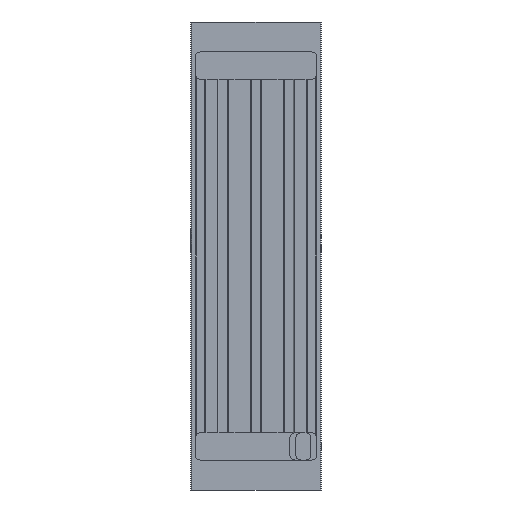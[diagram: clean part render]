
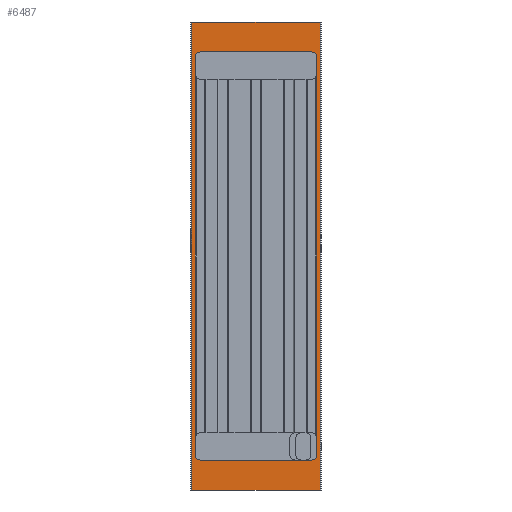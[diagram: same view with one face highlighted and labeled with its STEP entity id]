
A CAD part, front view. The second image highlights one B-rep face of the part: STEP entity #6487.
In plain terms, the highlighted planar face has unit normal (0, -1, 0).
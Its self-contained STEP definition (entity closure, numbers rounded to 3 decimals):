
#102 = VECTOR ( 'NONE', #4960, 1000. ) ;
#103 = LINE ( 'NONE', #5059, #102 ) ;
#255 = VERTEX_POINT ( 'NONE', #1852 ) ;
#297 = VERTEX_POINT ( 'NONE', #1829 ) ;
#314 = VERTEX_POINT ( 'NONE', #1853 ) ;
#317 = VERTEX_POINT ( 'NONE', #1856 ) ;
#370 = VERTEX_POINT ( 'NONE', #1889 ) ;
#382 = VERTEX_POINT ( 'NONE', #1893 ) ;
#394 = VERTEX_POINT ( 'NONE', #1940 ) ;
#402 = EDGE_LOOP ( 'NONE', ( #6241, #3638, #2179, #6556, #3666, #6507, #6273, #6555, #1140, #1177, #3674, #3665 ) ) ;
#420 = VERTEX_POINT ( 'NONE', #1933 ) ;
#547 = VERTEX_POINT ( 'NONE', #1851 ) ;
#559 = VERTEX_POINT ( 'NONE', #1847 ) ;
#593 = VERTEX_POINT ( 'NONE', #1857 ) ;
#595 = VERTEX_POINT ( 'NONE', #1842 ) ;
#611 = VERTEX_POINT ( 'NONE', #1861 ) ;
#646 = VERTEX_POINT ( 'NONE', #1953 ) ;
#667 = EDGE_LOOP ( 'NONE', ( #3649, #1175, #6264, #2164 ) ) ;
#680 = VERTEX_POINT ( 'NONE', #1958 ) ;
#685 = VERTEX_POINT ( 'NONE', #1957 ) ;
#1140 = ORIENTED_EDGE ( 'NONE', *, *, #2658, .F. ) ;
#1175 = ORIENTED_EDGE ( 'NONE', *, *, #2573, .T. ) ;
#1177 = ORIENTED_EDGE ( 'NONE', *, *, #2659, .F. ) ;
#1301 = CIRCLE ( 'NONE', #4351, 10. ) ;
#1306 = VECTOR ( 'NONE', #4769, 1000. ) ;
#1321 = LINE ( 'NONE', #5430, #1306 ) ;
#1829 = CARTESIAN_POINT ( 'NONE',  ( -57.588, -38.992, 765. ) ) ;
#1842 = CARTESIAN_POINT ( 'NONE',  ( -63.588, -38.992, 0. ) ) ;
#1847 = CARTESIAN_POINT ( 'NONE',  ( 166.412, -38.992, 65. ) ) ;
#1851 = CARTESIAN_POINT ( 'NONE',  ( 172.412, -38.992, 860. ) ) ;
#1852 = CARTESIAN_POINT ( 'NONE',  ( -57.588, -38.992, 95. ) ) ;
#1853 = CARTESIAN_POINT ( 'NONE',  ( -47.588, -38.992, 805. ) ) ;
#1856 = CARTESIAN_POINT ( 'NONE',  ( 156.412, -38.992, 55. ) ) ;
#1857 = CARTESIAN_POINT ( 'NONE',  ( 172.412, -38.992, 0. ) ) ;
#1861 = CARTESIAN_POINT ( 'NONE',  ( 156.412, -38.992, 805. ) ) ;
#1889 = CARTESIAN_POINT ( 'NONE',  ( 166.412, -38.992, 765. ) ) ;
#1893 = CARTESIAN_POINT ( 'NONE',  ( -57.588, -38.992, 795. ) ) ;
#1933 = CARTESIAN_POINT ( 'NONE',  ( -47.588, -38.992, 55. ) ) ;
#1940 = CARTESIAN_POINT ( 'NONE',  ( 166.412, -38.992, 95. ) ) ;
#1953 = CARTESIAN_POINT ( 'NONE',  ( -63.588, -38.992, 860. ) ) ;
#1957 = CARTESIAN_POINT ( 'NONE',  ( 166.412, -38.992, 795. ) ) ;
#1958 = CARTESIAN_POINT ( 'NONE',  ( -57.588, -38.992, 65. ) ) ;
#2164 = ORIENTED_EDGE ( 'NONE', *, *, #2581, .T. ) ;
#2179 = ORIENTED_EDGE ( 'NONE', *, *, #2588, .F. ) ;
#2246 = LINE ( 'NONE', #5158, #2277 ) ;
#2277 = VECTOR ( 'NONE', #5254, 1000. ) ;
#2558 = EDGE_CURVE ( 'NONE', #595, #593, #2994, .T. ) ;
#2562 = EDGE_CURVE ( 'NONE', #420, #317, #3112, .T. ) ;
#2567 = EDGE_CURVE ( 'NONE', #646, #547, #2738, .T. ) ;
#2568 = EDGE_CURVE ( 'NONE', #317, #559, #3243, .T. ) ;
#2569 = EDGE_CURVE ( 'NONE', #680, #420, #3171, .T. ) ;
#2572 = EDGE_CURVE ( 'NONE', #370, #394, #3184, .T. ) ;
#2573 = EDGE_CURVE ( 'NONE', #593, #547, #2783, .T. ) ;
#2581 = EDGE_CURVE ( 'NONE', #646, #595, #2812, .T. ) ;
#2584 = EDGE_CURVE ( 'NONE', #370, #685, #2779, .T. ) ;
#2588 = EDGE_CURVE ( 'NONE', #559, #394, #2735, .T. ) ;
#2600 = EDGE_CURVE ( 'NONE', #685, #611, #2999, .T. ) ;
#2604 = EDGE_CURVE ( 'NONE', #255, #680, #2804, .T. ) ;
#2658 = EDGE_CURVE ( 'NONE', #382, #297, #1321, .T. ) ;
#2659 = EDGE_CURVE ( 'NONE', #314, #382, #1301, .T. ) ;
#2677 = EDGE_CURVE ( 'NONE', #611, #314, #103, .T. ) ;
#2681 = EDGE_CURVE ( 'NONE', #255, #297, #2246, .T. ) ;
#2735 = LINE ( 'NONE', #5216, #2936 ) ;
#2738 = LINE ( 'NONE', #4698, #3141 ) ;
#2779 = LINE ( 'NONE', #5199, #3157 ) ;
#2783 = LINE ( 'NONE', #5404, #3194 ) ;
#2804 = LINE ( 'NONE', #5308, #2919 ) ;
#2812 = LINE ( 'NONE', #4949, #2933 ) ;
#2867 = VECTOR ( 'NONE', #5100, 1000. ) ;
#2919 = VECTOR ( 'NONE', #4771, 1000. ) ;
#2933 = VECTOR ( 'NONE', #4826, 1000. ) ;
#2936 = VECTOR ( 'NONE', #4753, 1000. ) ;
#2994 = LINE ( 'NONE', #4908, #3193 ) ;
#2999 = CIRCLE ( 'NONE', #4337, 10. ) ;
#3112 = LINE ( 'NONE', #5433, #2867 ) ;
#3135 = VECTOR ( 'NONE', #4747, 1000. ) ;
#3141 = VECTOR ( 'NONE', #5331, 1000. ) ;
#3157 = VECTOR ( 'NONE', #5292, 1000. ) ;
#3171 = CIRCLE ( 'NONE', #4293, 10. ) ;
#3184 = LINE ( 'NONE', #5319, #3135 ) ;
#3193 = VECTOR ( 'NONE', #5283, 1000. ) ;
#3194 = VECTOR ( 'NONE', #5129, 1000. ) ;
#3243 = CIRCLE ( 'NONE', #4302, 10. ) ;
#3638 = ORIENTED_EDGE ( 'NONE', *, *, #2572, .T. ) ;
#3649 = ORIENTED_EDGE ( 'NONE', *, *, #2558, .T. ) ;
#3665 = ORIENTED_EDGE ( 'NONE', *, *, #2600, .F. ) ;
#3666 = ORIENTED_EDGE ( 'NONE', *, *, #2562, .F. ) ;
#3674 = ORIENTED_EDGE ( 'NONE', *, *, #2677, .F. ) ;
#3852 = DIRECTION ( 'NONE',  ( 0., 1., 0. ) ) ;
#3874 = CARTESIAN_POINT ( 'NONE',  ( -65.588, -38.992, 860. ) ) ;
#3985 = PLANE ( 'NONE',  #4526 ) ;
#3991 = DIRECTION ( 'NONE',  ( 0., 0., 1. ) ) ;
#4293 = AXIS2_PLACEMENT_3D ( 'NONE', #5038, #4840, #4991 ) ;
#4302 = AXIS2_PLACEMENT_3D ( 'NONE', #5446, #5357, #5125 ) ;
#4337 = AXIS2_PLACEMENT_3D ( 'NONE', #5297, #4798, #4799 ) ;
#4351 = AXIS2_PLACEMENT_3D ( 'NONE', #5021, #4707, #5291 ) ;
#4526 = AXIS2_PLACEMENT_3D ( 'NONE', #3874, #3852, #3991 ) ;
#4698 = CARTESIAN_POINT ( 'NONE',  ( -65.588, -38.992, 860. ) ) ;
#4707 = DIRECTION ( 'NONE',  ( 0., -1., 0. ) ) ;
#4747 = DIRECTION ( 'NONE',  ( 0., 0., -1. ) ) ;
#4753 = DIRECTION ( 'NONE',  ( 0., 0., 1. ) ) ;
#4769 = DIRECTION ( 'NONE',  ( 0., 0., -1. ) ) ;
#4771 = DIRECTION ( 'NONE',  ( 0., 0., -1. ) ) ;
#4798 = DIRECTION ( 'NONE',  ( 0., -1., 0. ) ) ;
#4799 = DIRECTION ( 'NONE',  ( 0., 0., 1. ) ) ;
#4826 = DIRECTION ( 'NONE',  ( 0., 0., -1. ) ) ;
#4840 = DIRECTION ( 'NONE',  ( 0., -1., 0. ) ) ;
#4908 = CARTESIAN_POINT ( 'NONE',  ( -65.588, -38.992, 0. ) ) ;
#4949 = CARTESIAN_POINT ( 'NONE',  ( -63.588, -38.992, 860. ) ) ;
#4960 = DIRECTION ( 'NONE',  ( -1., 0., 0. ) ) ;
#4991 = DIRECTION ( 'NONE',  ( 0., 0., -1. ) ) ;
#5021 = CARTESIAN_POINT ( 'NONE',  ( -47.588, -38.992, 795. ) ) ;
#5038 = CARTESIAN_POINT ( 'NONE',  ( -47.588, -38.992, 65. ) ) ;
#5059 = CARTESIAN_POINT ( 'NONE',  ( 156.412, -38.992, 805. ) ) ;
#5100 = DIRECTION ( 'NONE',  ( 1., 0., 0. ) ) ;
#5125 = DIRECTION ( 'NONE',  ( 0., 0., 1. ) ) ;
#5129 = DIRECTION ( 'NONE',  ( 0., 0., 1. ) ) ;
#5158 = CARTESIAN_POINT ( 'NONE',  ( -57.588, -38.992, 759. ) ) ;
#5199 = CARTESIAN_POINT ( 'NONE',  ( 166.412, -38.992, 795. ) ) ;
#5216 = CARTESIAN_POINT ( 'NONE',  ( 166.412, -38.992, 65. ) ) ;
#5254 = DIRECTION ( 'NONE',  ( 0., 0., 1. ) ) ;
#5283 = DIRECTION ( 'NONE',  ( 1., 0., 0. ) ) ;
#5291 = DIRECTION ( 'NONE',  ( 0., 0., -1. ) ) ;
#5292 = DIRECTION ( 'NONE',  ( 0., 0., 1. ) ) ;
#5297 = CARTESIAN_POINT ( 'NONE',  ( 156.412, -38.992, 795. ) ) ;
#5308 = CARTESIAN_POINT ( 'NONE',  ( -57.588, -38.992, 65. ) ) ;
#5319 = CARTESIAN_POINT ( 'NONE',  ( 166.412, -38.992, 101. ) ) ;
#5331 = DIRECTION ( 'NONE',  ( 1., 0., 0. ) ) ;
#5357 = DIRECTION ( 'NONE',  ( 0., -1., 0. ) ) ;
#5404 = CARTESIAN_POINT ( 'NONE',  ( 172.412, -38.992, 860. ) ) ;
#5430 = CARTESIAN_POINT ( 'NONE',  ( -57.588, -38.992, 795. ) ) ;
#5433 = CARTESIAN_POINT ( 'NONE',  ( 156.412, -38.992, 55. ) ) ;
#5446 = CARTESIAN_POINT ( 'NONE',  ( 156.412, -38.992, 65. ) ) ;
#5834 = FACE_OUTER_BOUND ( 'NONE', #667, .T. ) ;
#5863 = FACE_BOUND ( 'NONE', #402, .T. ) ;
#6241 = ORIENTED_EDGE ( 'NONE', *, *, #2584, .F. ) ;
#6264 = ORIENTED_EDGE ( 'NONE', *, *, #2567, .F. ) ;
#6273 = ORIENTED_EDGE ( 'NONE', *, *, #2604, .F. ) ;
#6487 = ADVANCED_FACE ( 'NONE', ( #5834, #5863 ), #3985, .F. ) ;
#6507 = ORIENTED_EDGE ( 'NONE', *, *, #2569, .F. ) ;
#6555 = ORIENTED_EDGE ( 'NONE', *, *, #2681, .T. ) ;
#6556 = ORIENTED_EDGE ( 'NONE', *, *, #2568, .F. ) ;
